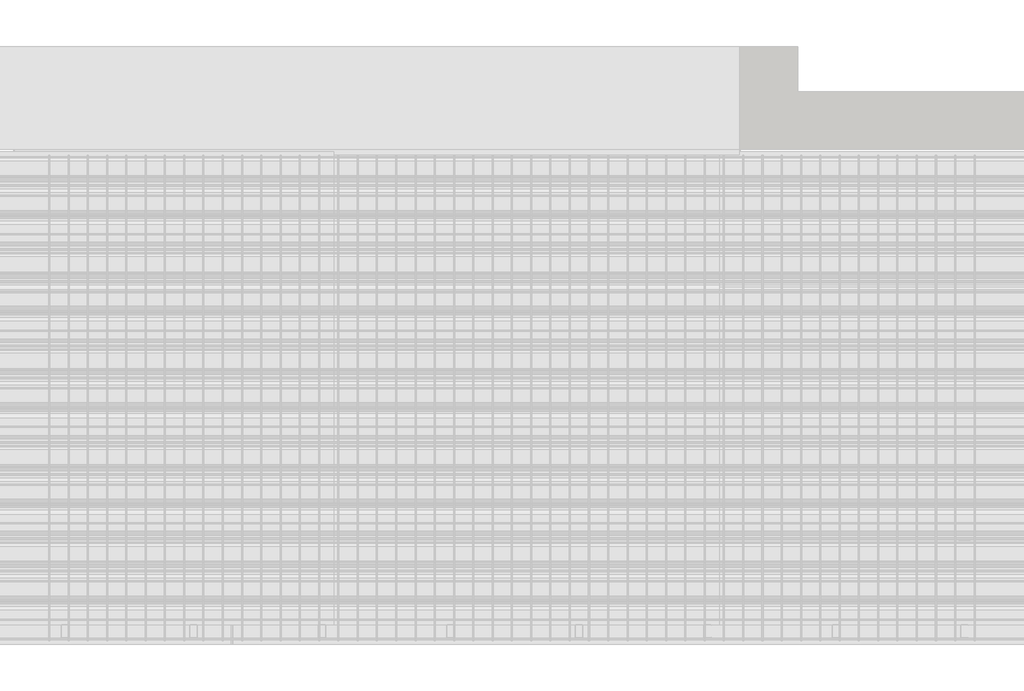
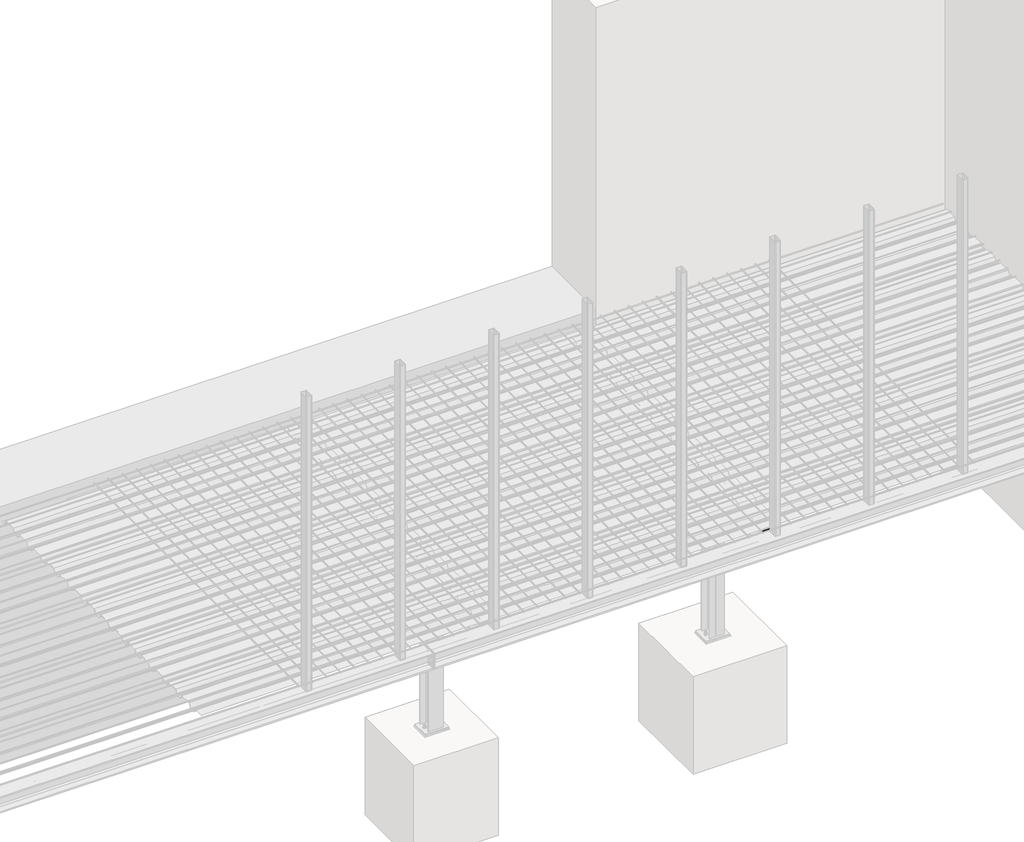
# One storey, part 14 of 36: 10 proxies.
"""IFC4 building model written with IfcOpenShell, lengths in millimetres."""

from ifc_helpers import new_model, si_unit, point, frame, frame_2d, origin, place, context, project, spatial, polyline, circle_curve, trimmed, segment, composite_curve, outline, extrude, element, save

model = new_model("IFC4")

# Units and contexts
model_context = context("Model", 3, world=origin())
ifc_project = project(units=[si_unit("LENGTHUNIT", "METRE", prefix="MILLI")], contexts=[model_context])

# Site, building, storey
site = spatial("IfcSite", under=ifc_project)
building = spatial("IfcBuilding", under=site)
storey = spatial("IfcBuildingStorey", under=building, Name="Základy", Elevation=-1200.0)

# Proxies
placement = place(None, origin())
element("IfcBuildingElementProxy", 1, Name="PLECH", ObjectType="PLECH", at=placement, inside=storey, context=model_context, shape_type="SweptSolid", body=[
    extrude(outline(polyline([(12140.0, 1170.0), (12140.0, 1350.0), (12150.0, 1350.0), (12150.0, 1170.0), (12140.0, 1170.0)])), frame((0.0, 0.0, -332.0), z_axis=(0.0, 0.0, 1.0), x_axis=(1.0, 0.0, 0.0)), (0.0, 0.0, 1.0), 164.0),
])
element("IfcBuildingElementProxy", 2, Name="PLECH", ObjectType="PLECH", at=placement, inside=storey, context=model_context, shape_type="SweptSolid", body=[
    extrude(outline(composite_curve([segment(polyline([(-174.0, 12140.0), (-174.0, 12079.5)]), True, "CONTINUOUS"), segment(trimmed(circle_curve(frame_2d((-174.0, 12054.5)), 25.0), [point((-174.0, 12079.5))], [point((-199.0, 12054.5))], True, "CARTESIAN"), True, "CONTINUOUS"), segment(polyline([(-199.0, 12054.5), (-301.0, 12054.5)]), True, "CONTINUOUS"), segment(trimmed(circle_curve(frame_2d((-326.0, 12054.5)), 25.0), [point((-301.0, 12054.5))], [point((-326.0, 12079.5))], True, "CARTESIAN"), True, "CONTINUOUS"), segment(polyline([(-326.0, 12079.5), (-326.0, 12140.0), (-174.0, 12140.0)]), True, "CONTINUOUS")], self_intersect=False)), frame((0.0, 1256.0, 0.0), z_axis=(0.0, 1.0, 0.0), x_axis=(0.0, 0.0, 1.0)), (0.0, 0.0, 1.0), 8.0),
])
element("IfcBuildingElementProxy", 3, Name="PLECH", ObjectType="PLECH", at=placement, inside=storey, context=model_context, shape_type="SweptSolid", body=[
    extrude(outline(polyline([(11960.0, 210.0), (12140.0, 210.0), (12140.0, 200.0), (11960.0, 200.0), (11960.0, 210.0)])), frame((0.0, 0.0, -332.0), z_axis=(0.0, 0.0, 1.0), x_axis=(1.0, 0.0, 0.0)), (0.0, 0.0, 1.0), 164.0),
])
element("IfcBuildingElementProxy", 4, Name="PLECH", ObjectType="PLECH", at=placement, inside=storey, context=model_context, shape_type="SweptSolid", body=[
    extrude(outline(composite_curve([segment(polyline([(3785.0, -170.5), (3834.5, -170.5)]), True, "CONTINUOUS"), segment(trimmed(circle_curve(frame_2d((3854.5, -170.5)), 20.0), [point((3834.5, -170.5))], [point((3854.5, -190.5))], True, "CARTESIAN"), True, "CONTINUOUS"), segment(polyline([(3854.5, -190.5), (3854.5, -309.5)]), True, "CONTINUOUS"), segment(trimmed(circle_curve(frame_2d((3854.5, -329.5)), 20.0), [point((3854.5, -309.5))], [point((3834.5, -329.5))], True, "CARTESIAN"), True, "CONTINUOUS"), segment(polyline([(3834.5, -329.5), (3785.0, -329.5), (3785.0, -170.5)]), True, "CONTINUOUS")], self_intersect=False)), frame((9046.0, 0.0, 0.0), z_axis=(1.0, 0.0, 0.0), x_axis=(0.0, 1.0, 0.0)), (0.0, 0.0, 1.0), 8.0),
])
element("IfcBuildingElementProxy", 5, Name="PLECH", ObjectType="PLECH", at=placement, inside=storey, context=model_context, shape_type="SweptSolid", body=[
    extrude(outline(polyline([(8960.0, 3785.0), (9140.0, 3785.0), (9140.0, 3775.0), (8960.0, 3775.0), (8960.0, 3785.0)])), frame((0.0, 0.0, -332.0), z_axis=(0.0, 0.0, 1.0), x_axis=(1.0, 0.0, 0.0)), (0.0, 0.0, 1.0), 164.0),
])
element("IfcBuildingElementProxy", 6, Name="PLECH", ObjectType="PLECH", at=placement, inside=storey, context=model_context, shape_type="SweptSolid", body=[
    extrude(outline(composite_curve([segment(polyline([(190.0, -174.0), (190.0, -326.0), (124.25, -326.0)]), True, "CONTINUOUS"), segment(trimmed(circle_curve(frame_2d((104.25, -326.0)), 20.0), [point((124.25, -326.0))], [point((104.25, -306.0))], True, "CARTESIAN"), True, "CONTINUOUS"), segment(polyline([(104.25, -306.0), (104.25, -194.0)]), True, "CONTINUOUS"), segment(trimmed(circle_curve(frame_2d((104.25, -174.0)), 20.0), [point((104.25, -194.0))], [point((124.25, -174.0))], True, "CARTESIAN"), True, "CONTINUOUS"), segment(polyline([(124.25, -174.0), (190.0, -174.0)]), True, "CONTINUOUS")], self_intersect=False)), frame((12046.0, 0.0, 0.0), z_axis=(1.0, 0.0, 0.0), x_axis=(0.0, 1.0, 0.0)), (0.0, 0.0, 1.0), 8.0),
])
element("IfcBuildingElementProxy", 7, Name="PLECH", ObjectType="PLECH", at=placement, inside=storey, context=model_context, shape_type="SweptSolid", body=[
    extrude(outline(polyline([(11960.0, 200.0), (12140.0, 200.0), (12140.0, 190.0), (11960.0, 190.0), (11960.0, 200.0)])), frame((0.0, 0.0, -332.0), z_axis=(0.0, 0.0, 1.0), x_axis=(1.0, 0.0, 0.0)), (0.0, 0.0, 1.0), 164.0),
])
element("IfcBuildingElementProxy", 8, Name="Bolt assembly", ObjectType="Bolt assembly", at=placement, inside=storey, context=model_context, shape_type="SweptSolid", body=[
    extrude(outline(composite_curve([segment(trimmed(circle_curve(frame_2d((-220.0, 9005.0)), 9.0), [point((-220.0, 9014.0))], [point((-220.0, 8996.0))], False, "CARTESIAN"), True, "CONTINUOUS"), segment(trimmed(circle_curve(frame_2d((-220.0, 9005.0)), 9.0), [point((-220.0, 8996.0))], [point((-220.0, 9014.0))], False, "CARTESIAN"), True, "CONTINUOUS")], self_intersect=False)), frame((0.0, 3774.9, 0.0), z_axis=(0.0, 1.0, 0.0), x_axis=(0.0, 0.0, 1.0)), (0.0, 0.0, 1.0), 10.0),
    extrude(outline(polyline([(-220.0, 9018.8564065), (-208.0, 9011.9282032), (-208.0, 8998.0717968), (-220.0, 8991.1435935), (-232.0, 8998.0717968), (-232.0, 9011.9282032), (-220.0, 9018.8564065)])), frame((0.0, 3788.0, 0.0), z_axis=(0.0, 1.0, 0.0), x_axis=(0.0, 0.0, 1.0)), (0.0, 0.0, 1.0), 10.0),
    extrude(outline(composite_curve([segment(trimmed(circle_curve(frame_2d((-220.0, 9005.0)), 8.0), [point((-220.0, 9013.0))], [point((-220.0, 8997.0))], False, "CARTESIAN"), True, "CONTINUOUS"), segment(trimmed(circle_curve(frame_2d((-220.0, 9005.0)), 8.0), [point((-220.0, 8997.0))], [point((-220.0, 9013.0))], False, "CARTESIAN"), True, "CONTINUOUS")], self_intersect=False)), frame((0.0, 3738.0, 0.0), z_axis=(0.0, 1.0, 0.0), x_axis=(0.0, 0.0, 1.0)), (0.0, 0.0, 1.0), 50.0),
    extrude(outline(composite_curve([segment(trimmed(circle_curve(frame_2d((-220.0, 9005.0)), 15.0), [point((-220.0, 9020.0))], [point((-220.0, 8990.0))], False, "CARTESIAN"), True, "CONTINUOUS"), segment(trimmed(circle_curve(frame_2d((-220.0, 9005.0)), 15.0), [point((-220.0, 8990.0))], [point((-220.0, 9020.0))], False, "CARTESIAN"), True, "CONTINUOUS")], self_intersect=False)), frame((0.0, 3785.0, 0.0), z_axis=(0.0, 1.0, 0.0), x_axis=(0.0, 0.0, 1.0)), (0.0, 0.0, 1.0), 3.0),
    extrude(outline(composite_curve([segment(trimmed(circle_curve(frame_2d((-220.0, 9005.0)), 15.0), [point((-220.0, 9020.0))], [point((-220.0, 8990.0))], False, "CARTESIAN"), True, "CONTINUOUS"), segment(trimmed(circle_curve(frame_2d((-220.0, 9005.0)), 15.0), [point((-220.0, 8990.0))], [point((-220.0, 9020.0))], False, "CARTESIAN"), True, "CONTINUOUS")], self_intersect=False)), frame((0.0, 3764.0, 0.0), z_axis=(0.0, 1.0, 0.0), x_axis=(0.0, 0.0, 1.0)), (0.0, 0.0, 1.0), 3.0),
    extrude(outline(polyline([(-220.0, 9020.4441197), (-206.625, 9012.7220599), (-206.625, 8997.2779401), (-220.0, 8989.5558803), (-233.375, 8997.2779401), (-233.375, 9012.7220599), (-220.0, 9020.4441197)])), frame((0.0, 3751.0, 0.0), z_axis=(0.0, 1.0, 0.0), x_axis=(0.0, 0.0, 1.0)), (0.0, 0.0, 1.0), 13.0),
    extrude(outline(composite_curve([segment(trimmed(circle_curve(frame_2d((-220.0, 9005.0)), 9.0), [point((-220.0, 9014.0))], [point((-220.0, 8996.0))], False, "CARTESIAN"), True, "CONTINUOUS"), segment(trimmed(circle_curve(frame_2d((-220.0, 9005.0)), 9.0), [point((-220.0, 8996.0))], [point((-220.0, 9014.0))], False, "CARTESIAN"), True, "CONTINUOUS")], self_intersect=False)), frame((0.0, 3767.0, 0.0), z_axis=(0.0, 1.0, 0.0), x_axis=(0.0, 0.0, 1.0)), (0.0, 0.0, 1.0), 8.1),
    extrude(outline(composite_curve([segment(trimmed(circle_curve(frame_2d((-220.0, 9095.0)), 9.0), [point((-220.0, 9104.0))], [point((-220.0, 9086.0))], False, "CARTESIAN"), True, "CONTINUOUS"), segment(trimmed(circle_curve(frame_2d((-220.0, 9095.0)), 9.0), [point((-220.0, 9086.0))], [point((-220.0, 9104.0))], False, "CARTESIAN"), True, "CONTINUOUS")], self_intersect=False)), frame((0.0, 3774.9, 0.0), z_axis=(0.0, 1.0, 0.0), x_axis=(0.0, 0.0, 1.0)), (0.0, 0.0, 1.0), 10.0),
    extrude(outline(polyline([(-220.0, 9108.8564065), (-208.0, 9101.9282032), (-208.0, 9088.0717968), (-220.0, 9081.1435935), (-232.0, 9088.0717968), (-232.0, 9101.9282032), (-220.0, 9108.8564065)])), frame((0.0, 3788.0, 0.0), z_axis=(0.0, 1.0, 0.0), x_axis=(0.0, 0.0, 1.0)), (0.0, 0.0, 1.0), 10.0),
    extrude(outline(composite_curve([segment(trimmed(circle_curve(frame_2d((-220.0, 9095.0)), 8.0), [point((-220.0, 9103.0))], [point((-220.0, 9087.0))], False, "CARTESIAN"), True, "CONTINUOUS"), segment(trimmed(circle_curve(frame_2d((-220.0, 9095.0)), 8.0), [point((-220.0, 9087.0))], [point((-220.0, 9103.0))], False, "CARTESIAN"), True, "CONTINUOUS")], self_intersect=False)), frame((0.0, 3738.0, 0.0), z_axis=(0.0, 1.0, 0.0), x_axis=(0.0, 0.0, 1.0)), (0.0, 0.0, 1.0), 50.0),
    extrude(outline(composite_curve([segment(trimmed(circle_curve(frame_2d((-220.0, 9095.0)), 15.0), [point((-220.0, 9110.0))], [point((-220.0, 9080.0))], False, "CARTESIAN"), True, "CONTINUOUS"), segment(trimmed(circle_curve(frame_2d((-220.0, 9095.0)), 15.0), [point((-220.0, 9080.0))], [point((-220.0, 9110.0))], False, "CARTESIAN"), True, "CONTINUOUS")], self_intersect=False)), frame((0.0, 3785.0, 0.0), z_axis=(0.0, 1.0, 0.0), x_axis=(0.0, 0.0, 1.0)), (0.0, 0.0, 1.0), 3.0),
    extrude(outline(composite_curve([segment(trimmed(circle_curve(frame_2d((-220.0, 9095.0)), 15.0), [point((-220.0, 9110.0))], [point((-220.0, 9080.0))], False, "CARTESIAN"), True, "CONTINUOUS"), segment(trimmed(circle_curve(frame_2d((-220.0, 9095.0)), 15.0), [point((-220.0, 9080.0))], [point((-220.0, 9110.0))], False, "CARTESIAN"), True, "CONTINUOUS")], self_intersect=False)), frame((0.0, 3764.0, 0.0), z_axis=(0.0, 1.0, 0.0), x_axis=(0.0, 0.0, 1.0)), (0.0, 0.0, 1.0), 3.0),
    extrude(outline(polyline([(-220.0, 9110.4441197), (-206.625, 9102.7220599), (-206.625, 9087.2779401), (-220.0, 9079.5558803), (-233.375, 9087.2779401), (-233.375, 9102.7220599), (-220.0, 9110.4441197)])), frame((0.0, 3751.0, 0.0), z_axis=(0.0, 1.0, 0.0), x_axis=(0.0, 0.0, 1.0)), (0.0, 0.0, 1.0), 13.0),
    extrude(outline(composite_curve([segment(trimmed(circle_curve(frame_2d((-220.0, 9095.0)), 9.0), [point((-220.0, 9104.0))], [point((-220.0, 9086.0))], False, "CARTESIAN"), True, "CONTINUOUS"), segment(trimmed(circle_curve(frame_2d((-220.0, 9095.0)), 9.0), [point((-220.0, 9086.0))], [point((-220.0, 9104.0))], False, "CARTESIAN"), True, "CONTINUOUS")], self_intersect=False)), frame((0.0, 3767.0, 0.0), z_axis=(0.0, 1.0, 0.0), x_axis=(0.0, 0.0, 1.0)), (0.0, 0.0, 1.0), 8.1),
    extrude(outline(composite_curve([segment(trimmed(circle_curve(frame_2d((-280.0, 9005.0)), 9.0), [point((-280.0, 9014.0))], [point((-280.0, 8996.0))], False, "CARTESIAN"), True, "CONTINUOUS"), segment(trimmed(circle_curve(frame_2d((-280.0, 9005.0)), 9.0), [point((-280.0, 8996.0))], [point((-280.0, 9014.0))], False, "CARTESIAN"), True, "CONTINUOUS")], self_intersect=False)), frame((0.0, 3774.9, 0.0), z_axis=(0.0, 1.0, 0.0), x_axis=(0.0, 0.0, 1.0)), (0.0, 0.0, 1.0), 10.0),
    extrude(outline(polyline([(-280.0, 9018.8564065), (-268.0, 9011.9282032), (-268.0, 8998.0717968), (-280.0, 8991.1435935), (-292.0, 8998.0717968), (-292.0, 9011.9282032), (-280.0, 9018.8564065)])), frame((0.0, 3788.0, 0.0), z_axis=(0.0, 1.0, 0.0), x_axis=(0.0, 0.0, 1.0)), (0.0, 0.0, 1.0), 10.0),
    extrude(outline(composite_curve([segment(trimmed(circle_curve(frame_2d((-280.0, 9005.0)), 8.0), [point((-280.0, 9013.0))], [point((-280.0, 8997.0))], False, "CARTESIAN"), True, "CONTINUOUS"), segment(trimmed(circle_curve(frame_2d((-280.0, 9005.0)), 8.0), [point((-280.0, 8997.0))], [point((-280.0, 9013.0))], False, "CARTESIAN"), True, "CONTINUOUS")], self_intersect=False)), frame((0.0, 3738.0, 0.0), z_axis=(0.0, 1.0, 0.0), x_axis=(0.0, 0.0, 1.0)), (0.0, 0.0, 1.0), 50.0),
    extrude(outline(composite_curve([segment(trimmed(circle_curve(frame_2d((-280.0, 9005.0)), 15.0), [point((-280.0, 9020.0))], [point((-280.0, 8990.0))], False, "CARTESIAN"), True, "CONTINUOUS"), segment(trimmed(circle_curve(frame_2d((-280.0, 9005.0)), 15.0), [point((-280.0, 8990.0))], [point((-280.0, 9020.0))], False, "CARTESIAN"), True, "CONTINUOUS")], self_intersect=False)), frame((0.0, 3785.0, 0.0), z_axis=(0.0, 1.0, 0.0), x_axis=(0.0, 0.0, 1.0)), (0.0, 0.0, 1.0), 3.0),
    extrude(outline(composite_curve([segment(trimmed(circle_curve(frame_2d((-280.0, 9005.0)), 15.0), [point((-280.0, 9020.0))], [point((-280.0, 8990.0))], False, "CARTESIAN"), True, "CONTINUOUS"), segment(trimmed(circle_curve(frame_2d((-280.0, 9005.0)), 15.0), [point((-280.0, 8990.0))], [point((-280.0, 9020.0))], False, "CARTESIAN"), True, "CONTINUOUS")], self_intersect=False)), frame((0.0, 3764.0, 0.0), z_axis=(0.0, 1.0, 0.0), x_axis=(0.0, 0.0, 1.0)), (0.0, 0.0, 1.0), 3.0),
    extrude(outline(polyline([(-280.0, 9020.4441197), (-266.625, 9012.7220599), (-266.625, 8997.2779401), (-280.0, 8989.5558803), (-293.375, 8997.2779401), (-293.375, 9012.7220599), (-280.0, 9020.4441197)])), frame((0.0, 3751.0, 0.0), z_axis=(0.0, 1.0, 0.0), x_axis=(0.0, 0.0, 1.0)), (0.0, 0.0, 1.0), 13.0),
    extrude(outline(composite_curve([segment(trimmed(circle_curve(frame_2d((-280.0, 9005.0)), 9.0), [point((-280.0, 9014.0))], [point((-280.0, 8996.0))], False, "CARTESIAN"), True, "CONTINUOUS"), segment(trimmed(circle_curve(frame_2d((-280.0, 9005.0)), 9.0), [point((-280.0, 8996.0))], [point((-280.0, 9014.0))], False, "CARTESIAN"), True, "CONTINUOUS")], self_intersect=False)), frame((0.0, 3767.0, 0.0), z_axis=(0.0, 1.0, 0.0), x_axis=(0.0, 0.0, 1.0)), (0.0, 0.0, 1.0), 8.1),
    extrude(outline(composite_curve([segment(trimmed(circle_curve(frame_2d((-280.0, 9095.0)), 9.0), [point((-280.0, 9104.0))], [point((-280.0, 9086.0))], False, "CARTESIAN"), True, "CONTINUOUS"), segment(trimmed(circle_curve(frame_2d((-280.0, 9095.0)), 9.0), [point((-280.0, 9086.0))], [point((-280.0, 9104.0))], False, "CARTESIAN"), True, "CONTINUOUS")], self_intersect=False)), frame((0.0, 3774.9, 0.0), z_axis=(0.0, 1.0, 0.0), x_axis=(0.0, 0.0, 1.0)), (0.0, 0.0, 1.0), 10.0),
    extrude(outline(polyline([(-280.0, 9108.8564065), (-268.0, 9101.9282032), (-268.0, 9088.0717968), (-280.0, 9081.1435935), (-292.0, 9088.0717968), (-292.0, 9101.9282032), (-280.0, 9108.8564065)])), frame((0.0, 3788.0, 0.0), z_axis=(0.0, 1.0, 0.0), x_axis=(0.0, 0.0, 1.0)), (0.0, 0.0, 1.0), 10.0),
    extrude(outline(composite_curve([segment(trimmed(circle_curve(frame_2d((-280.0, 9095.0)), 8.0), [point((-280.0, 9103.0))], [point((-280.0, 9087.0))], False, "CARTESIAN"), True, "CONTINUOUS"), segment(trimmed(circle_curve(frame_2d((-280.0, 9095.0)), 8.0), [point((-280.0, 9087.0))], [point((-280.0, 9103.0))], False, "CARTESIAN"), True, "CONTINUOUS")], self_intersect=False)), frame((0.0, 3738.0, 0.0), z_axis=(0.0, 1.0, 0.0), x_axis=(0.0, 0.0, 1.0)), (0.0, 0.0, 1.0), 50.0),
    extrude(outline(composite_curve([segment(trimmed(circle_curve(frame_2d((-280.0, 9095.0)), 15.0), [point((-280.0, 9110.0))], [point((-280.0, 9080.0))], False, "CARTESIAN"), True, "CONTINUOUS"), segment(trimmed(circle_curve(frame_2d((-280.0, 9095.0)), 15.0), [point((-280.0, 9080.0))], [point((-280.0, 9110.0))], False, "CARTESIAN"), True, "CONTINUOUS")], self_intersect=False)), frame((0.0, 3785.0, 0.0), z_axis=(0.0, 1.0, 0.0), x_axis=(0.0, 0.0, 1.0)), (0.0, 0.0, 1.0), 3.0),
    extrude(outline(composite_curve([segment(trimmed(circle_curve(frame_2d((-280.0, 9095.0)), 15.0), [point((-280.0, 9110.0))], [point((-280.0, 9080.0))], False, "CARTESIAN"), True, "CONTINUOUS"), segment(trimmed(circle_curve(frame_2d((-280.0, 9095.0)), 15.0), [point((-280.0, 9080.0))], [point((-280.0, 9110.0))], False, "CARTESIAN"), True, "CONTINUOUS")], self_intersect=False)), frame((0.0, 3764.0, 0.0), z_axis=(0.0, 1.0, 0.0), x_axis=(0.0, 0.0, 1.0)), (0.0, 0.0, 1.0), 3.0),
    extrude(outline(polyline([(-280.0, 9110.4441197), (-266.625, 9102.7220599), (-266.625, 9087.2779401), (-280.0, 9079.5558803), (-293.375, 9087.2779401), (-293.375, 9102.7220599), (-280.0, 9110.4441197)])), frame((0.0, 3751.0, 0.0), z_axis=(0.0, 1.0, 0.0), x_axis=(0.0, 0.0, 1.0)), (0.0, 0.0, 1.0), 13.0),
    extrude(outline(composite_curve([segment(trimmed(circle_curve(frame_2d((-280.0, 9095.0)), 9.0), [point((-280.0, 9104.0))], [point((-280.0, 9086.0))], False, "CARTESIAN"), True, "CONTINUOUS"), segment(trimmed(circle_curve(frame_2d((-280.0, 9095.0)), 9.0), [point((-280.0, 9086.0))], [point((-280.0, 9104.0))], False, "CARTESIAN"), True, "CONTINUOUS")], self_intersect=False)), frame((0.0, 3767.0, 0.0), z_axis=(0.0, 1.0, 0.0), x_axis=(0.0, 0.0, 1.0)), (0.0, 0.0, 1.0), 8.1),
])
element("IfcBuildingElementProxy", 9, Name="Bolt assembly", ObjectType="Bolt assembly", at=placement, inside=storey, context=model_context, shape_type="SweptSolid", body=[
    extrude(outline(polyline([(-250.0, 8934.8149546), (-241.5, 8929.9074773), (-241.5, 8920.0925227), (-250.0, 8915.1850454), (-258.5, 8920.0925227), (-258.5, 8929.9074773), (-250.0, 8934.8149546)])), frame((0.0, 3860.0, 0.0), z_axis=(0.0, 1.0, 0.0), x_axis=(0.0, 0.0, 1.0)), (0.0, 0.0, 1.0), 168.0),
    extrude(outline(composite_curve([segment(trimmed(circle_curve(frame_2d((-250.0, 8925.0)), 10.0), [point((-250.0, 8935.0))], [point((-250.0, 8915.0))], False, "CARTESIAN"), True, "CONTINUOUS"), segment(trimmed(circle_curve(frame_2d((-250.0, 8925.0)), 10.0), [point((-250.0, 8915.0))], [point((-250.0, 8935.0))], False, "CARTESIAN"), True, "CONTINUOUS")], self_intersect=False)), frame((0.0, 3788.0, 0.0), z_axis=(0.0, 1.0, 0.0), x_axis=(0.0, 0.0, 1.0)), (0.0, 0.0, 1.0), 72.0),
    extrude(outline(composite_curve([segment(trimmed(circle_curve(frame_2d((-250.0, 8925.0)), 18.5), [point((-250.0, 8943.5))], [point((-250.0, 8906.5))], False, "CARTESIAN"), True, "CONTINUOUS"), segment(trimmed(circle_curve(frame_2d((-250.0, 8925.0)), 18.5), [point((-250.0, 8906.5))], [point((-250.0, 8943.5))], False, "CARTESIAN"), True, "CONTINUOUS")], self_intersect=False)), frame((0.0, 3851.5, 0.0), z_axis=(0.0, 1.0, 0.0), x_axis=(0.0, 0.0, 1.0)), (0.0, 0.0, 1.0), 3.0),
    extrude(outline(polyline([(-250.0, 8942.3205081), (-235.0, 8933.660254), (-235.0, 8916.339746), (-250.0, 8907.6794919), (-265.0, 8916.339746), (-265.0, 8933.660254), (-250.0, 8942.3205081)])), frame((0.0, 3835.5, 0.0), z_axis=(0.0, 1.0, 0.0), x_axis=(0.0, 0.0, 1.0)), (0.0, 0.0, 1.0), 16.0),
    extrude(outline(composite_curve([segment(trimmed(circle_curve(frame_2d((-250.0, 8925.0)), 11.0), [point((-250.0, 8936.0))], [point((-250.0, 8914.0))], False, "CARTESIAN"), True, "CONTINUOUS"), segment(trimmed(circle_curve(frame_2d((-250.0, 8925.0)), 11.0), [point((-250.0, 8914.0))], [point((-250.0, 8936.0))], False, "CARTESIAN"), True, "CONTINUOUS")], self_intersect=False)), frame((0.0, 3854.4, 0.0), z_axis=(0.0, 1.0, 0.0), x_axis=(0.0, 0.0, 1.0)), (0.0, 0.0, 1.0), 5.6),
    extrude(outline(polyline([(-250.0, 9184.8149546), (-241.5, 9179.9074773), (-241.5, 9170.0925227), (-250.0, 9165.1850454), (-258.5, 9170.0925227), (-258.5, 9179.9074773), (-250.0, 9184.8149546)])), frame((0.0, 3860.0, 0.0), z_axis=(0.0, 1.0, 0.0), x_axis=(0.0, 0.0, 1.0)), (0.0, 0.0, 1.0), 168.0),
    extrude(outline(composite_curve([segment(trimmed(circle_curve(frame_2d((-250.0, 9175.0)), 10.0), [point((-250.0, 9185.0))], [point((-250.0, 9165.0))], False, "CARTESIAN"), True, "CONTINUOUS"), segment(trimmed(circle_curve(frame_2d((-250.0, 9175.0)), 10.0), [point((-250.0, 9165.0))], [point((-250.0, 9185.0))], False, "CARTESIAN"), True, "CONTINUOUS")], self_intersect=False)), frame((0.0, 3788.0, 0.0), z_axis=(0.0, 1.0, 0.0), x_axis=(0.0, 0.0, 1.0)), (0.0, 0.0, 1.0), 72.0),
    extrude(outline(composite_curve([segment(trimmed(circle_curve(frame_2d((-250.0, 9175.0)), 18.5), [point((-250.0, 9193.5))], [point((-250.0, 9156.5))], False, "CARTESIAN"), True, "CONTINUOUS"), segment(trimmed(circle_curve(frame_2d((-250.0, 9175.0)), 18.5), [point((-250.0, 9156.5))], [point((-250.0, 9193.5))], False, "CARTESIAN"), True, "CONTINUOUS")], self_intersect=False)), frame((0.0, 3851.5, 0.0), z_axis=(0.0, 1.0, 0.0), x_axis=(0.0, 0.0, 1.0)), (0.0, 0.0, 1.0), 3.0),
    extrude(outline(polyline([(-250.0, 9192.3205081), (-235.0, 9183.660254), (-235.0, 9166.339746), (-250.0, 9157.6794919), (-265.0, 9166.339746), (-265.0, 9183.660254), (-250.0, 9192.3205081)])), frame((0.0, 3835.5, 0.0), z_axis=(0.0, 1.0, 0.0), x_axis=(0.0, 0.0, 1.0)), (0.0, 0.0, 1.0), 16.0),
    extrude(outline(composite_curve([segment(trimmed(circle_curve(frame_2d((-250.0, 9175.0)), 11.0), [point((-250.0, 9186.0))], [point((-250.0, 9164.0))], False, "CARTESIAN"), True, "CONTINUOUS"), segment(trimmed(circle_curve(frame_2d((-250.0, 9175.0)), 11.0), [point((-250.0, 9164.0))], [point((-250.0, 9186.0))], False, "CARTESIAN"), True, "CONTINUOUS")], self_intersect=False)), frame((0.0, 3854.4, 0.0), z_axis=(0.0, 1.0, 0.0), x_axis=(0.0, 0.0, 1.0)), (0.0, 0.0, 1.0), 5.6),
])
element("IfcBuildingElementProxy", 10, Name="Bolt assembly", ObjectType="Bolt assembly", at=placement, inside=storey, context=model_context, shape_type="SweptSolid", body=[
    extrude(outline(composite_curve([segment(trimmed(circle_curve(frame_2d((-290.0, 12005.0)), 9.0), [point((-290.0, 12014.0))], [point((-290.0, 11996.0))], False, "CARTESIAN"), True, "CONTINUOUS"), segment(trimmed(circle_curve(frame_2d((-290.0, 12005.0)), 9.0), [point((-290.0, 11996.0))], [point((-290.0, 12014.0))], False, "CARTESIAN"), True, "CONTINUOUS")], self_intersect=False)), frame((0.0, 190.1, 0.0), z_axis=(0.0, 1.0, 0.0), x_axis=(0.0, 0.0, 1.0)), (0.0, 0.0, 1.0), 10.0),
    extrude(outline(polyline([(-290.0, 12018.8564065), (-278.0, 12011.9282032), (-278.0, 11998.0717968), (-290.0, 11991.1435935), (-302.0, 11998.0717968), (-302.0, 12011.9282032), (-290.0, 12018.8564065)])), frame((0.0, 177.0, 0.0), z_axis=(0.0, 1.0, 0.0), x_axis=(0.0, 0.0, 1.0)), (0.0, 0.0, 1.0), 10.0),
    extrude(outline(composite_curve([segment(trimmed(circle_curve(frame_2d((-290.0, 12005.0)), 8.0), [point((-290.0, 12013.0))], [point((-290.0, 11997.0))], False, "CARTESIAN"), True, "CONTINUOUS"), segment(trimmed(circle_curve(frame_2d((-290.0, 12005.0)), 8.0), [point((-290.0, 11997.0))], [point((-290.0, 12013.0))], False, "CARTESIAN"), True, "CONTINUOUS")], self_intersect=False)), frame((0.0, 187.0, 0.0), z_axis=(0.0, 1.0, 0.0), x_axis=(0.0, 0.0, 1.0)), (0.0, 0.0, 1.0), 50.0),
    extrude(outline(composite_curve([segment(trimmed(circle_curve(frame_2d((-290.0, 12005.0)), 15.0), [point((-290.0, 12020.0))], [point((-290.0, 11990.0))], False, "CARTESIAN"), True, "CONTINUOUS"), segment(trimmed(circle_curve(frame_2d((-290.0, 12005.0)), 15.0), [point((-290.0, 11990.0))], [point((-290.0, 12020.0))], False, "CARTESIAN"), True, "CONTINUOUS")], self_intersect=False)), frame((0.0, 187.0, 0.0), z_axis=(0.0, 1.0, 0.0), x_axis=(0.0, 0.0, 1.0)), (0.0, 0.0, 1.0), 3.0),
    extrude(outline(composite_curve([segment(trimmed(circle_curve(frame_2d((-290.0, 12005.0)), 15.0), [point((-290.0, 12020.0))], [point((-290.0, 11990.0))], False, "CARTESIAN"), True, "CONTINUOUS"), segment(trimmed(circle_curve(frame_2d((-290.0, 12005.0)), 15.0), [point((-290.0, 11990.0))], [point((-290.0, 12020.0))], False, "CARTESIAN"), True, "CONTINUOUS")], self_intersect=False)), frame((0.0, 210.0, 0.0), z_axis=(0.0, 1.0, 0.0), x_axis=(0.0, 0.0, 1.0)), (0.0, 0.0, 1.0), 3.0),
    extrude(outline(polyline([(-290.0, 12020.4441197), (-276.625, 12012.7220599), (-276.625, 11997.2779401), (-290.0, 11989.5558803), (-303.375, 11997.2779401), (-303.375, 12012.7220599), (-290.0, 12020.4441197)])), frame((0.0, 213.0, 0.0), z_axis=(0.0, 1.0, 0.0), x_axis=(0.0, 0.0, 1.0)), (0.0, 0.0, 1.0), 13.0),
    extrude(outline(composite_curve([segment(trimmed(circle_curve(frame_2d((-290.0, 12005.0)), 9.0), [point((-290.0, 12014.0))], [point((-290.0, 11996.0))], False, "CARTESIAN"), True, "CONTINUOUS"), segment(trimmed(circle_curve(frame_2d((-290.0, 12005.0)), 9.0), [point((-290.0, 11996.0))], [point((-290.0, 12014.0))], False, "CARTESIAN"), True, "CONTINUOUS")], self_intersect=False)), frame((0.0, 199.9, 0.0), z_axis=(0.0, 1.0, 0.0), x_axis=(0.0, 0.0, 1.0)), (0.0, 0.0, 1.0), 10.1),
    extrude(outline(composite_curve([segment(trimmed(circle_curve(frame_2d((-290.0, 12095.0)), 9.0), [point((-290.0, 12104.0))], [point((-290.0, 12086.0))], False, "CARTESIAN"), True, "CONTINUOUS"), segment(trimmed(circle_curve(frame_2d((-290.0, 12095.0)), 9.0), [point((-290.0, 12086.0))], [point((-290.0, 12104.0))], False, "CARTESIAN"), True, "CONTINUOUS")], self_intersect=False)), frame((0.0, 190.1, 0.0), z_axis=(0.0, 1.0, 0.0), x_axis=(0.0, 0.0, 1.0)), (0.0, 0.0, 1.0), 10.0),
    extrude(outline(polyline([(-290.0, 12108.8564065), (-278.0, 12101.9282032), (-278.0, 12088.0717968), (-290.0, 12081.1435935), (-302.0, 12088.0717968), (-302.0, 12101.9282032), (-290.0, 12108.8564065)])), frame((0.0, 177.0, 0.0), z_axis=(0.0, 1.0, 0.0), x_axis=(0.0, 0.0, 1.0)), (0.0, 0.0, 1.0), 10.0),
    extrude(outline(composite_curve([segment(trimmed(circle_curve(frame_2d((-290.0, 12095.0)), 8.0), [point((-290.0, 12103.0))], [point((-290.0, 12087.0))], False, "CARTESIAN"), True, "CONTINUOUS"), segment(trimmed(circle_curve(frame_2d((-290.0, 12095.0)), 8.0), [point((-290.0, 12087.0))], [point((-290.0, 12103.0))], False, "CARTESIAN"), True, "CONTINUOUS")], self_intersect=False)), frame((0.0, 187.0, 0.0), z_axis=(0.0, 1.0, 0.0), x_axis=(0.0, 0.0, 1.0)), (0.0, 0.0, 1.0), 50.0),
    extrude(outline(composite_curve([segment(trimmed(circle_curve(frame_2d((-290.0, 12095.0)), 15.0), [point((-290.0, 12110.0))], [point((-290.0, 12080.0))], False, "CARTESIAN"), True, "CONTINUOUS"), segment(trimmed(circle_curve(frame_2d((-290.0, 12095.0)), 15.0), [point((-290.0, 12080.0))], [point((-290.0, 12110.0))], False, "CARTESIAN"), True, "CONTINUOUS")], self_intersect=False)), frame((0.0, 187.0, 0.0), z_axis=(0.0, 1.0, 0.0), x_axis=(0.0, 0.0, 1.0)), (0.0, 0.0, 1.0), 3.0),
    extrude(outline(composite_curve([segment(trimmed(circle_curve(frame_2d((-290.0, 12095.0)), 15.0), [point((-290.0, 12110.0))], [point((-290.0, 12080.0))], False, "CARTESIAN"), True, "CONTINUOUS"), segment(trimmed(circle_curve(frame_2d((-290.0, 12095.0)), 15.0), [point((-290.0, 12080.0))], [point((-290.0, 12110.0))], False, "CARTESIAN"), True, "CONTINUOUS")], self_intersect=False)), frame((0.0, 210.0, 0.0), z_axis=(0.0, 1.0, 0.0), x_axis=(0.0, 0.0, 1.0)), (0.0, 0.0, 1.0), 3.0),
    extrude(outline(polyline([(-290.0, 12110.4441197), (-276.625, 12102.7220599), (-276.625, 12087.2779401), (-290.0, 12079.5558803), (-303.375, 12087.2779401), (-303.375, 12102.7220599), (-290.0, 12110.4441197)])), frame((0.0, 213.0, 0.0), z_axis=(0.0, 1.0, 0.0), x_axis=(0.0, 0.0, 1.0)), (0.0, 0.0, 1.0), 13.0),
    extrude(outline(composite_curve([segment(trimmed(circle_curve(frame_2d((-290.0, 12095.0)), 9.0), [point((-290.0, 12104.0))], [point((-290.0, 12086.0))], False, "CARTESIAN"), True, "CONTINUOUS"), segment(trimmed(circle_curve(frame_2d((-290.0, 12095.0)), 9.0), [point((-290.0, 12086.0))], [point((-290.0, 12104.0))], False, "CARTESIAN"), True, "CONTINUOUS")], self_intersect=False)), frame((0.0, 199.9, 0.0), z_axis=(0.0, 1.0, 0.0), x_axis=(0.0, 0.0, 1.0)), (0.0, 0.0, 1.0), 10.1),
    extrude(outline(composite_curve([segment(trimmed(circle_curve(frame_2d((-210.0, 12005.0)), 9.0), [point((-210.0, 12014.0))], [point((-210.0, 11996.0))], False, "CARTESIAN"), True, "CONTINUOUS"), segment(trimmed(circle_curve(frame_2d((-210.0, 12005.0)), 9.0), [point((-210.0, 11996.0))], [point((-210.0, 12014.0))], False, "CARTESIAN"), True, "CONTINUOUS")], self_intersect=False)), frame((0.0, 190.1, 0.0), z_axis=(0.0, 1.0, 0.0), x_axis=(0.0, 0.0, 1.0)), (0.0, 0.0, 1.0), 10.0),
    extrude(outline(polyline([(-210.0, 12018.8564065), (-198.0, 12011.9282032), (-198.0, 11998.0717968), (-210.0, 11991.1435935), (-222.0, 11998.0717968), (-222.0, 12011.9282032), (-210.0, 12018.8564065)])), frame((0.0, 177.0, 0.0), z_axis=(0.0, 1.0, 0.0), x_axis=(0.0, 0.0, 1.0)), (0.0, 0.0, 1.0), 10.0),
    extrude(outline(composite_curve([segment(trimmed(circle_curve(frame_2d((-210.0, 12005.0)), 8.0), [point((-210.0, 12013.0))], [point((-210.0, 11997.0))], False, "CARTESIAN"), True, "CONTINUOUS"), segment(trimmed(circle_curve(frame_2d((-210.0, 12005.0)), 8.0), [point((-210.0, 11997.0))], [point((-210.0, 12013.0))], False, "CARTESIAN"), True, "CONTINUOUS")], self_intersect=False)), frame((0.0, 187.0, 0.0), z_axis=(0.0, 1.0, 0.0), x_axis=(0.0, 0.0, 1.0)), (0.0, 0.0, 1.0), 50.0),
    extrude(outline(composite_curve([segment(trimmed(circle_curve(frame_2d((-210.0, 12005.0)), 15.0), [point((-210.0, 12020.0))], [point((-210.0, 11990.0))], False, "CARTESIAN"), True, "CONTINUOUS"), segment(trimmed(circle_curve(frame_2d((-210.0, 12005.0)), 15.0), [point((-210.0, 11990.0))], [point((-210.0, 12020.0))], False, "CARTESIAN"), True, "CONTINUOUS")], self_intersect=False)), frame((0.0, 187.0, 0.0), z_axis=(0.0, 1.0, 0.0), x_axis=(0.0, 0.0, 1.0)), (0.0, 0.0, 1.0), 3.0),
    extrude(outline(composite_curve([segment(trimmed(circle_curve(frame_2d((-210.0, 12005.0)), 15.0), [point((-210.0, 12020.0))], [point((-210.0, 11990.0))], False, "CARTESIAN"), True, "CONTINUOUS"), segment(trimmed(circle_curve(frame_2d((-210.0, 12005.0)), 15.0), [point((-210.0, 11990.0))], [point((-210.0, 12020.0))], False, "CARTESIAN"), True, "CONTINUOUS")], self_intersect=False)), frame((0.0, 210.0, 0.0), z_axis=(0.0, 1.0, 0.0), x_axis=(0.0, 0.0, 1.0)), (0.0, 0.0, 1.0), 3.0),
    extrude(outline(polyline([(-210.0, 12020.4441197), (-196.625, 12012.7220599), (-196.625, 11997.2779401), (-210.0, 11989.5558803), (-223.375, 11997.2779401), (-223.375, 12012.7220599), (-210.0, 12020.4441197)])), frame((0.0, 213.0, 0.0), z_axis=(0.0, 1.0, 0.0), x_axis=(0.0, 0.0, 1.0)), (0.0, 0.0, 1.0), 13.0),
    extrude(outline(composite_curve([segment(trimmed(circle_curve(frame_2d((-210.0, 12005.0)), 9.0), [point((-210.0, 12014.0))], [point((-210.0, 11996.0))], False, "CARTESIAN"), True, "CONTINUOUS"), segment(trimmed(circle_curve(frame_2d((-210.0, 12005.0)), 9.0), [point((-210.0, 11996.0))], [point((-210.0, 12014.0))], False, "CARTESIAN"), True, "CONTINUOUS")], self_intersect=False)), frame((0.0, 199.9, 0.0), z_axis=(0.0, 1.0, 0.0), x_axis=(0.0, 0.0, 1.0)), (0.0, 0.0, 1.0), 10.1),
    extrude(outline(composite_curve([segment(trimmed(circle_curve(frame_2d((-210.0, 12095.0)), 9.0), [point((-210.0, 12104.0))], [point((-210.0, 12086.0))], False, "CARTESIAN"), True, "CONTINUOUS"), segment(trimmed(circle_curve(frame_2d((-210.0, 12095.0)), 9.0), [point((-210.0, 12086.0))], [point((-210.0, 12104.0))], False, "CARTESIAN"), True, "CONTINUOUS")], self_intersect=False)), frame((0.0, 190.1, 0.0), z_axis=(0.0, 1.0, 0.0), x_axis=(0.0, 0.0, 1.0)), (0.0, 0.0, 1.0), 10.0),
    extrude(outline(polyline([(-210.0, 12108.8564065), (-198.0, 12101.9282032), (-198.0, 12088.0717968), (-210.0, 12081.1435935), (-222.0, 12088.0717968), (-222.0, 12101.9282032), (-210.0, 12108.8564065)])), frame((0.0, 177.0, 0.0), z_axis=(0.0, 1.0, 0.0), x_axis=(0.0, 0.0, 1.0)), (0.0, 0.0, 1.0), 10.0),
    extrude(outline(composite_curve([segment(trimmed(circle_curve(frame_2d((-210.0, 12095.0)), 8.0), [point((-210.0, 12103.0))], [point((-210.0, 12087.0))], False, "CARTESIAN"), True, "CONTINUOUS"), segment(trimmed(circle_curve(frame_2d((-210.0, 12095.0)), 8.0), [point((-210.0, 12087.0))], [point((-210.0, 12103.0))], False, "CARTESIAN"), True, "CONTINUOUS")], self_intersect=False)), frame((0.0, 187.0, 0.0), z_axis=(0.0, 1.0, 0.0), x_axis=(0.0, 0.0, 1.0)), (0.0, 0.0, 1.0), 50.0),
    extrude(outline(composite_curve([segment(trimmed(circle_curve(frame_2d((-210.0, 12095.0)), 15.0), [point((-210.0, 12110.0))], [point((-210.0, 12080.0))], False, "CARTESIAN"), True, "CONTINUOUS"), segment(trimmed(circle_curve(frame_2d((-210.0, 12095.0)), 15.0), [point((-210.0, 12080.0))], [point((-210.0, 12110.0))], False, "CARTESIAN"), True, "CONTINUOUS")], self_intersect=False)), frame((0.0, 187.0, 0.0), z_axis=(0.0, 1.0, 0.0), x_axis=(0.0, 0.0, 1.0)), (0.0, 0.0, 1.0), 3.0),
    extrude(outline(composite_curve([segment(trimmed(circle_curve(frame_2d((-210.0, 12095.0)), 15.0), [point((-210.0, 12110.0))], [point((-210.0, 12080.0))], False, "CARTESIAN"), True, "CONTINUOUS"), segment(trimmed(circle_curve(frame_2d((-210.0, 12095.0)), 15.0), [point((-210.0, 12080.0))], [point((-210.0, 12110.0))], False, "CARTESIAN"), True, "CONTINUOUS")], self_intersect=False)), frame((0.0, 210.0, 0.0), z_axis=(0.0, 1.0, 0.0), x_axis=(0.0, 0.0, 1.0)), (0.0, 0.0, 1.0), 3.0),
    extrude(outline(polyline([(-210.0, 12110.4441197), (-196.625, 12102.7220599), (-196.625, 12087.2779401), (-210.0, 12079.5558803), (-223.375, 12087.2779401), (-223.375, 12102.7220599), (-210.0, 12110.4441197)])), frame((0.0, 213.0, 0.0), z_axis=(0.0, 1.0, 0.0), x_axis=(0.0, 0.0, 1.0)), (0.0, 0.0, 1.0), 13.0),
    extrude(outline(composite_curve([segment(trimmed(circle_curve(frame_2d((-210.0, 12095.0)), 9.0), [point((-210.0, 12104.0))], [point((-210.0, 12086.0))], False, "CARTESIAN"), True, "CONTINUOUS"), segment(trimmed(circle_curve(frame_2d((-210.0, 12095.0)), 9.0), [point((-210.0, 12086.0))], [point((-210.0, 12104.0))], False, "CARTESIAN"), True, "CONTINUOUS")], self_intersect=False)), frame((0.0, 199.9, 0.0), z_axis=(0.0, 1.0, 0.0), x_axis=(0.0, 0.0, 1.0)), (0.0, 0.0, 1.0), 10.1),
])

save(model, "model.ifc")
